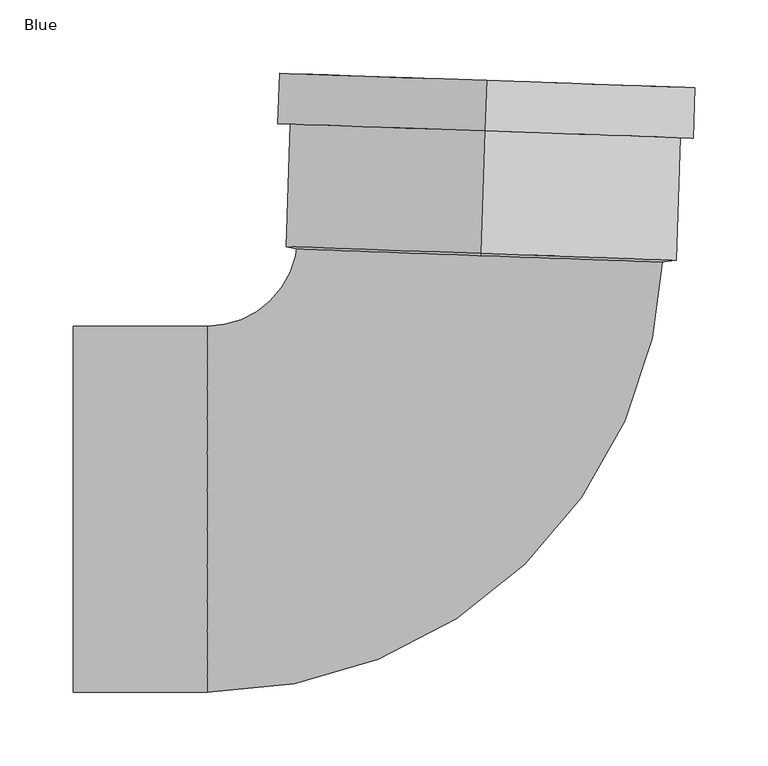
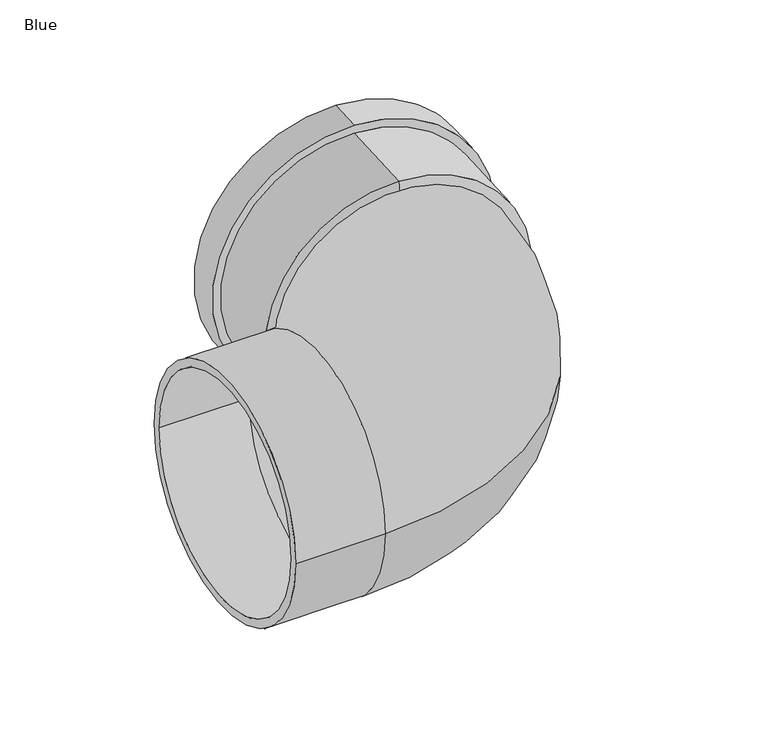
"""IFC4 building model written with IfcOpenShell, lengths in millimetres: pipe fitting geometry, AWADUKT PP SN10 Bend : Blue."""

from ifc_helpers import new_model, si_unit, point, frame, origin, place, context, project, spatial, polyline, circle_curve, ellipse_curve, trimmed, source, transform, mapped, element, save
from ifc_brep_helpers import plane_surface, cylinder_surface, revolved_surface, advanced_brep


def blue_4c692024(model_context):
    return source(origin(), model_context, "Body", "AdvancedBrep", [
        advanced_brep(
        [(9.0215199, 258.3425288, 133.6), (9.0215199, 258.3425288, -133.6), (6.1004374, 174.6936717, -133.6), (6.1004374, 174.6936717, 133.6), (10.2220626, 292.7215732, 142.2), (10.2220626, 292.7215732, -142.2), (9.0215199, 258.3425288, -142.2), (9.0215199, 258.3425288, 142.2), (9.9219269, 284.1268121, 125.0), (9.9219269, 284.1268121, -125.0), (10.2220626, 292.7215732, -125.0), (10.2220626, 292.7215732, 125.0), (9.3216556, 266.9372899, 133.6), (9.3216556, 266.9372899, -133.6), (9.9219269, 284.1268121, -133.6), (9.9219269, 284.1268121, 133.6), (6.3522812, 181.9055326, 125.0), (6.3522812, 181.9055326, -125.0), (9.3216556, 266.9372899, -125.0), (9.3216556, 266.9372899, 125.0), (6.2993592, 180.3900443, 116.4), (6.2993592, 180.3900443, -116.4), (5.9945934, 171.6626951, 116.4), (5.9945934, 171.6626951, -116.4)],
        [
            (0, 1, circle_curve(frame((9.0215199, 258.3425288, 0.0), z_axis=(-0.034899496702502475, -0.9993908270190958, 0.0), x_axis=(0.0, 0.0, -1.0)), 133.6)),
            (1, 2),
            (2, 3, circle_curve(frame((6.1004374, 174.6936717, 0.0), z_axis=(0.034899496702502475, 0.9993908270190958, 0.0), x_axis=(0.0, 0.0, -1.0)), 133.6)),
            (3, 0),
            (4, 5, circle_curve(frame((10.2220626, 292.7215732, 0.0), z_axis=(-0.034899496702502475, -0.9993908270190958, 0.0), x_axis=(0.0, 0.0, -1.0)), 142.2)),
            (5, 6),
            (6, 7, circle_curve(frame((9.0215199, 258.3425288, 0.0), z_axis=(0.034899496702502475, 0.9993908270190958, 0.0), x_axis=(0.0, 0.0, -1.0)), 142.2)),
            (7, 4),
            (8, 9, circle_curve(frame((9.9219269, 284.1268121, 0.0), z_axis=(-0.034899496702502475, -0.9993908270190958, 0.0), x_axis=(0.0, 0.0, -1.0)), 125.0)),
            (9, 10),
            (10, 11, circle_curve(frame((10.2220626, 292.7215732, 0.0), z_axis=(0.034899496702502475, 0.9993908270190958, 0.0), x_axis=(0.0, 0.0, -1.0)), 125.0)),
            (11, 8),
            (12, 13, circle_curve(frame((9.3216556, 266.9372899, 0.0), z_axis=(-0.034899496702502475, -0.9993908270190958, 0.0), x_axis=(0.0, 0.0, -1.0)), 133.6)),
            (13, 14),
            (14, 15, circle_curve(frame((9.9219269, 284.1268121, 0.0), z_axis=(0.034899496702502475, 0.9993908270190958, 0.0), x_axis=(0.0, 0.0, -1.0)), 133.6)),
            (15, 12),
            (16, 17, circle_curve(frame((6.3522812, 181.9055326, 0.0), z_axis=(-0.034899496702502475, -0.9993908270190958, 0.0), x_axis=(0.0, 0.0, -1.0)), 125.0)),
            (17, 18),
            (18, 19, circle_curve(frame((9.3216556, 266.9372899, 0.0), z_axis=(0.034899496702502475, 0.9993908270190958, 0.0), x_axis=(0.0, 0.0, -1.0)), 125.0)),
            (19, 16),
            (20, 21, circle_curve(frame((6.2993592, 180.3900443, 0.0), z_axis=(-0.034899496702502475, -0.9993908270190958, 0.0), x_axis=(0.0, 0.0, -1.0)), 116.4)),
            (21, 17),
            (16, 20),
            (22, 23, circle_curve(frame((5.9945934, 171.6626951, 0.0), z_axis=(-0.034899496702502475, -0.9993908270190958, 0.0), x_axis=(0.0, 0.0, -1.0)), 116.4)),
            (23, 21),
            (20, 22),
            (2, 23),
            (22, 3),
            (1, 0, circle_curve(frame((9.0215199, 258.3425288, 0.0), z_axis=(-0.034899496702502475, -0.9993908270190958, 0.0), x_axis=(0.0, 0.0, 1.0)), 133.6)),
            (3, 2, circle_curve(frame((6.1004374, 174.6936717, 0.0), z_axis=(0.034899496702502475, 0.9993908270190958, 0.0), x_axis=(0.0, 0.0, 1.0)), 133.6)),
            (6, 7, circle_curve(frame((9.0215199, 258.3425288, 0.0), z_axis=(-0.034899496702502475, -0.9993908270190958, 0.0), x_axis=(0.0, 0.0, 1.0)), 142.2)),
            (5, 4, circle_curve(frame((10.2220626, 292.7215732, 0.0), z_axis=(-0.034899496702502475, -0.9993908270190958, 0.0), x_axis=(0.0, 0.0, 1.0)), 142.2)),
            (10, 11, circle_curve(frame((10.2220626, 292.7215732, 0.0), z_axis=(-0.034899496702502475, -0.9993908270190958, 0.0), x_axis=(0.0, 0.0, 1.0)), 125.0)),
            (9, 8, circle_curve(frame((9.9219269, 284.1268121, 0.0), z_axis=(-0.034899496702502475, -0.9993908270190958, 0.0), x_axis=(0.0, 0.0, 1.0)), 125.0)),
            (14, 15, circle_curve(frame((9.9219269, 284.1268121, 0.0), z_axis=(-0.034899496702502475, -0.9993908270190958, 0.0), x_axis=(0.0, 0.0, 1.0)), 133.6)),
            (13, 12, circle_curve(frame((9.3216556, 266.9372899, 0.0), z_axis=(-0.034899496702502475, -0.9993908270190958, 0.0), x_axis=(0.0, 0.0, 1.0)), 133.6)),
            (18, 19, circle_curve(frame((9.3216556, 266.9372899, 0.0), z_axis=(-0.034899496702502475, -0.9993908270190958, 0.0), x_axis=(0.0, 0.0, 1.0)), 125.0)),
            (17, 16, circle_curve(frame((6.3522812, 181.9055326, 0.0), z_axis=(-0.034899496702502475, -0.9993908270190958, 0.0), x_axis=(0.0, 0.0, 1.0)), 125.0)),
            (21, 20, circle_curve(frame((6.2993592, 180.3900443, 0.0), z_axis=(-0.034899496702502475, -0.9993908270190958, 0.0), x_axis=(0.0, 0.0, 1.0)), 116.4)),
            (23, 22, circle_curve(frame((5.9945934, 171.6626951, 0.0), z_axis=(-0.034899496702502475, -0.9993908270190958, 0.0), x_axis=(0.0, 0.0, 1.0)), 116.4)),
        ],
        [
            cylinder_surface(frame((6.2993592, 180.3900443, 0.0), z_axis=(0.034899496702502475, 0.9993908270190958, 0.0), x_axis=(0.0, 0.0, -1.0)), 133.6),
            cylinder_surface(frame((6.2993592, 180.3900443, 0.0), z_axis=(0.034899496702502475, 0.9993908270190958, 0.0), x_axis=(0.0, 0.0, -1.0)), 142.2),
            revolved_surface(polyline([(10.22206262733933, 292.72157319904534, -125.0), (9.92192695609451, 284.12681209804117, -125.0)]), (6.2993592, 180.3900443, 0.0), (0.034899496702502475, 0.9993908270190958, 0.0)),
            revolved_surface(polyline([(9.92192695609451, 284.12681209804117, -133.6), (9.32165561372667, 266.93728989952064, -133.6)]), (6.2993592, 180.3900443, 0.0), (0.034899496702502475, 0.9993908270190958, 0.0)),
            revolved_surface(polyline([(9.32165561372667, 266.93728989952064, -125.0), (6.352281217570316, 181.90553259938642, -125.0)]), (6.2993592, 180.3900443, 0.0), (0.034899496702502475, 0.9993908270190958, 0.0)),
            revolved_surface(polyline([(6.3522812, 181.9055326, -125.0), (6.2993592, 180.3900443, -116.4)]), (6.2993592, 180.3900443, 0.0), (0.034899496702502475, 0.9993908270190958, 0.0)),
            revolved_surface(polyline([(6.2993592, 180.3900443, -116.4), (5.994593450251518, 171.6626950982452, -116.4)]), (6.2993592, 180.3900443, 0.0), (0.034899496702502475, 0.9993908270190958, 0.0)),
            revolved_surface(polyline([(5.9945934, 171.6626951, -116.4), (6.1004374, 174.6936717, -133.6)]), (6.2993592, 180.3900443, 0.0), (0.034899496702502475, 0.9993908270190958, 0.0)),
            cylinder_surface(frame((6.2993592, 180.3900443, 0.0), z_axis=(0.034899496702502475, 0.9993908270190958, 0.0), x_axis=(0.0, 0.0, 1.0)), 133.6),
            plane_surface(frame((9.0215199, 258.3425288, 0.0), z_axis=(-0.034899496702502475, -0.9993908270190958, 0.0), x_axis=(0.0, 0.0, 1.0))),
            cylinder_surface(frame((6.2993592, 180.3900443, 0.0), z_axis=(0.034899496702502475, 0.9993908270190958, 0.0), x_axis=(0.0, 0.0, 1.0)), 142.2),
            plane_surface(frame((10.2220626, 292.7215732, 0.0), z_axis=(0.034899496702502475, 0.9993908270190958, 0.0), x_axis=(0.0, 0.0, 1.0))),
            revolved_surface(polyline([(10.22206262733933, 292.72157319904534, 125.0), (9.92192695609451, 284.12681209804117, 125.0)]), (6.2993592, 180.3900443, 0.0), (0.034899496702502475, 0.9993908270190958, 0.0)),
            plane_surface(frame((9.9219269, 284.1268121, 0.0), z_axis=(-0.034899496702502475, -0.9993908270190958, 0.0), x_axis=(0.0, 0.0, 1.0))),
            revolved_surface(polyline([(9.92192695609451, 284.12681209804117, 133.6), (9.32165561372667, 266.93728989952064, 133.6)]), (6.2993592, 180.3900443, 0.0), (0.034899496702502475, 0.9993908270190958, 0.0)),
            plane_surface(frame((9.3216556, 266.9372899, 0.0), z_axis=(0.034899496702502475, 0.9993908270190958, 0.0), x_axis=(0.0, 0.0, 1.0))),
            revolved_surface(polyline([(9.32165561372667, 266.93728989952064, 125.0), (6.352281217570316, 181.90553259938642, 125.0)]), (6.2993592, 180.3900443, 0.0), (0.034899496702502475, 0.9993908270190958, 0.0)),
            revolved_surface(polyline([(6.3522812, 181.9055326, 125.0), (6.2993592, 180.3900443, 116.4)]), (6.2993592, 180.3900443, 0.0), (0.034899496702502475, 0.9993908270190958, 0.0)),
            revolved_surface(polyline([(6.2993592, 180.3900443, 116.4), (5.994593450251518, 171.6626950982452, 116.4)]), (6.2993592, 180.3900443, 0.0), (0.034899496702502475, 0.9993908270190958, 0.0)),
            revolved_surface(polyline([(5.9945934, 171.6626951, 116.4), (6.1004374, 174.6936717, 133.6)]), (6.2993592, 180.3900443, 0.0), (0.034899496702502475, 0.9993908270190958, 0.0)),
        ],
        [
            (0, [[1, 2, 3, 4]]),
            (1, [[5, 6, 7, 8]]),
            (2, [[9, 10, 11, 12]]),
            (3, [[13, 14, 15, 16]]),
            (4, [[17, 18, 19, 20]]),
            (5, [[21, 22, -17, 23]]),
            (6, [[24, 25, -21, 26]]),
            (7, [[-3, 27, -24, 28]]),
            (8, [[29, -4, 30, -2]]),
            (9, [[31, -7], [-29, -1]]),
            (10, [[32, -8, -31, -6]]),
            (11, [[-32, -5], [33, -11]]),
            (12, [[34, -12, -33, -10]]),
            (13, [[35, -15], [-34, -9]]),
            (14, [[36, -16, -35, -14]]),
            (15, [[-36, -13], [37, -19]]),
            (16, [[38, -20, -37, -18]]),
            (17, [[39, -23, -38, -22]]),
            (18, [[40, -26, -39, -25]]),
            (19, [[-30, -28, -40, -27]]),
        ],
    ),
        advanced_brep(
        [(-272.0, -125.0, 0.0), (-272.0, 125.0, 0.0), (-272.0, -116.4, 0.0), (-272.0, 116.4, 0.0), (131.2232125, 176.0276072, 0.0), (-118.6244942, 184.7524814, 0.0), (122.6284514, 176.3277429, 0.0), (-110.0297331, 184.4523457, 0.0), (-180.5, -116.4, 0.0), (-180.5, 116.4, 0.0), (-180.5, -125.0, 0.0), (-180.5, 125.0, 0.0)],
        [
            (0, 1, circle_curve(frame((-272.0, 0.0, 0.0), z_axis=(-1.0, 0.0, 0.0), x_axis=(0.0, 1.0, 0.0)), 125.0)),
            (1, 0, circle_curve(frame((-272.0, 0.0, 0.0), z_axis=(-1.0, 0.0, 0.0), x_axis=(0.0, 1.0, 0.0)), 125.0)),
            (2, 3, circle_curve(frame((-272.0, 0.0, 0.0), z_axis=(1.0, 0.0, 0.0), x_axis=(0.0, 1.0, 0.0)), 116.4)),
            (3, 2, circle_curve(frame((-272.0, 0.0, 0.0), z_axis=(1.0, 0.0, 0.0), x_axis=(0.0, 1.0, 0.0)), 116.4)),
            (4, 5, circle_curve(frame((6.2993592, 180.3900443, 0.0), z_axis=(0.03489949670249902, 0.9993908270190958, 0.0), x_axis=(-0.9993908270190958, 0.03489949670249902, 0.0)), 125.0)),
            (5, 4, circle_curve(frame((6.2993592, 180.3900443, 0.0), z_axis=(0.03489949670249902, 0.9993908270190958, 0.0), x_axis=(-0.9993908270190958, 0.03489949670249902, 0.0)), 125.0)),
            (6, 7, circle_curve(frame((6.2993592, 180.3900443, 0.0), z_axis=(-0.03489949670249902, -0.9993908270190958, 0.0), x_axis=(-0.9993908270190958, 0.03489949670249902, 0.0)), 116.4)),
            (7, 6, circle_curve(frame((6.2993592, 180.3900443, 0.0), z_axis=(-0.03489949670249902, -0.9993908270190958, 0.0), x_axis=(-0.9993908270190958, 0.03489949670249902, 0.0)), 116.4)),
            (2, 8),
            (8, 9, circle_curve(frame((-180.5, 0.0, 0.0), z_axis=(1.0, 0.0, 0.0), x_axis=(0.0, 1.0, 0.0)), 116.4)),
            (9, 3),
            (9, 8, circle_curve(frame((-180.5, 0.0, 0.0), z_axis=(1.0, 0.0, 0.0), x_axis=(0.0, 1.0, 0.0)), 116.4)),
            (0, 10),
            (10, 11, circle_curve(frame((-180.5, 0.0, 0.0), z_axis=(-1.0, 0.0, 0.0), x_axis=(0.0, 1.0, 0.0)), 125.0)),
            (11, 1),
            (11, 10, circle_curve(frame((-180.5, 0.0, 0.0), z_axis=(-1.0, 0.0, 0.0), x_axis=(0.0, 1.0, 0.0)), 125.0)),
            (7, 9, circle_curve(frame((-180.5, 186.9132216, 0.0), z_axis=(0.0, 0.0, -1.0), x_axis=(0.0, -1.0, 0.0)), 70.5132216)),
            (8, 6, circle_curve(frame((-180.5, 186.9132216, 0.0), z_axis=(0.0, 0.0, 1.0), x_axis=(0.0, -1.0, 0.0)), 303.3132216)),
            (5, 11, circle_curve(frame((-180.5, 186.9132216, 0.0), z_axis=(0.0, 0.0, -1.0), x_axis=(0.0, -1.0, 0.0)), 61.9132216)),
            (10, 4, circle_curve(frame((-180.5, 186.9132216, 0.0), z_axis=(0.0, 0.0, 1.0), x_axis=(0.0, -1.0, 0.0)), 311.9132216)),
        ],
        [
            plane_surface(frame((-272.0, 0.0, 0.0), z_axis=(-1.0, 0.0, 0.0), x_axis=(0.0, 0.0, 1.0))),
            plane_surface(frame((6.2993592, 180.3900443, 0.0), z_axis=(0.03489949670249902, 0.9993908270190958, 0.0), x_axis=(0.0, 0.0, 1.0))),
            revolved_surface(polyline([(-180.5, 116.4, 0.0), (-272.0, 116.4, 0.0)]), (-272.0, 0.0, 0.0), (1.0, 0.0, 0.0)),
            cylinder_surface(frame((-272.0, 0.0, 0.0), z_axis=(-1.0, 0.0, 0.0), x_axis=(0.0, 1.0, 0.0)), 125.0),
            revolved_surface(trimmed(ellipse_curve(frame((-180.5, 0.0, 0.0), z_axis=(1.0, 0.0, 0.0), x_axis=(0.0, 1.0, 0.0)), 116.4, 116.4), [point((-180.5, -116.4, 0.0))], [point((-180.5, 116.4, 0.0))], True, "CARTESIAN"), (-180.5, 186.9132216, 0.0), (0.0, 0.0, 1.0)),
            revolved_surface(trimmed(ellipse_curve(frame((-180.5, 0.0, 0.0), z_axis=(1.0, 0.0, 0.0), x_axis=(0.0, 1.0, 0.0)), 116.4, 116.4), [point((-180.5, 116.4, 0.0))], [point((-180.5, -116.4, 0.0))], True, "CARTESIAN"), (-180.5, 186.9132216, 0.0), (0.0, 0.0, 1.0)),
            revolved_surface(trimmed(ellipse_curve(frame((-180.5, 0.0, 0.0), z_axis=(-1.0, 0.0, 0.0), x_axis=(0.0, 1.0, 0.0)), 125.0, 125.0), [point((-180.5, -125.0, 0.0))], [point((-180.5, 125.0, 0.0))], True, "CARTESIAN"), (-180.5, 186.9132216, 0.0), (0.0, 0.0, 1.0)),
            revolved_surface(trimmed(ellipse_curve(frame((-180.5, 0.0, 0.0), z_axis=(-1.0, 0.0, 0.0), x_axis=(0.0, 1.0, 0.0)), 125.0, 125.0), [point((-180.5, 125.0, 0.0))], [point((-180.5, -125.0, 0.0))], True, "CARTESIAN"), (-180.5, 186.9132216, 0.0), (0.0, 0.0, 1.0)),
        ],
        [
            (0, [[1, 2], [3, 4]]),
            (1, [[5, 6], [7, 8]]),
            (2, [[-3, 9, 10, 11]]),
            (2, [[-4, -11, 12, -9]]),
            (3, [[-1, 13, 14, 15]]),
            (3, [[-2, -15, 16, -13]]),
            (4, [[17, -10, 18, -8]]),
            (5, [[-18, -12, -17, -7]]),
            (6, [[19, -14, 20, -6]]),
            (7, [[-20, -16, -19, -5]]),
        ],
    ),
    ])


if __name__ == "__main__":
    model = new_model("IFC4")
    model_context = context("Model", 3, world=origin())
    ifc_project = project(units=[si_unit("LENGTHUNIT", "METRE", prefix="MILLI")], contexts=[model_context])
    site = spatial("IfcSite", under=ifc_project)
    building = spatial("IfcBuilding", under=site)
    placement = place(None, origin())
    blue_shape = blue_4c692024(model_context)
    element("IfcPipeFitting", 1, ObjectType="AWADUKT PP SN10 Bend : Blue", at=placement, inside=building, context=model_context, shape_type="MappedRepresentation", body=[
        mapped(blue_shape, transform((0.0, 0.0, 0.0), x_axis=(1.0, 0.0, 0.0), y_axis=(0.0, 1.0, 0.0), z_axis=(0.0, 0.0, 1.0))),
    ])
    save(model, "model.ifc")
